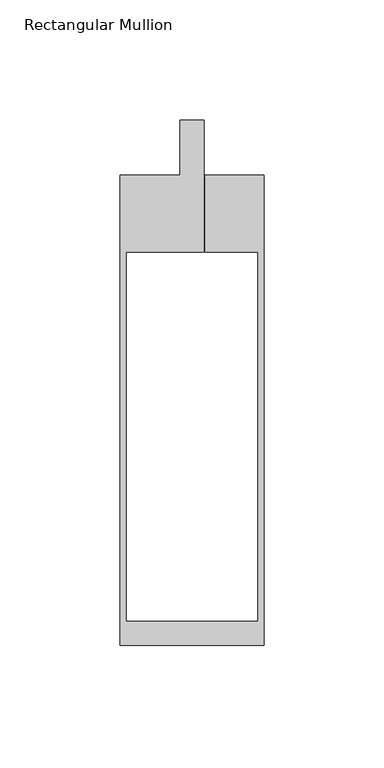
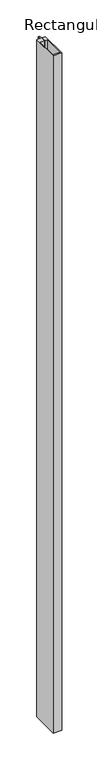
"""IFC4 building model written with IfcOpenShell, lengths in millimetres: member geometry, Rectangular Mullion : FMO60-200S S+."""

from ifc_helpers import new_model, si_unit, origin, place, context, project, spatial, faceted_brep, source, transform, mapped, element, save


def rectangular_mullion_91a4d03f(model_context):
    return source(origin(), model_context, "Body", "Brep", [
        faceted_brep([(-4.9998612, 0.2, 0.0), (-29.996122, 0.2, 0.0), (-29.996122, -195.8044778, 0.0), (30.0001388, -195.8044778, 0.0), (30.0001388, 0.2, 0.0), (5.4998612, 0.2, 0.0), (5.4998612, -31.8, 0.0), (27.5001388, -31.8, 0.0), (27.5001388, -185.8044778, 0.0), (-27.4998612, -185.8044778, 0.0), (-27.4998612, -31.8, 0.0), (4.9998612, -31.8, 0.0), (4.9998612, 23.1914962, 0.0), (-4.9998612, 23.1914866, 0.0), (-4.9998612, 0.2, -5000.0), (-4.9998612, 23.1914866, -5000.0), (4.9998612, 23.1914866, -5000.0), (4.9998612, -31.8, -5000.0), (-27.4998612, -31.8, -5000.0), (-27.4998612, -185.8044778, -5000.0), (27.5001388, -185.8044778, -5000.0), (27.5001388, -31.8, -5000.0), (5.4998612, -31.8, -5000.0), (5.4998612, 0.2, -5000.0), (30.0001388, 0.2, -5000.0), (30.0001388, -195.8044778, -5000.0), (-29.996122, -195.8044778, -5000.0), (-29.996122, 0.2, -5000.0)], [[[0, 1, 2, 3, 4, 5, 6, 7, 8, 9, 10, 11, 12, 13]], [[14, 15, 16, 17, 18, 19, 20, 21, 22, 23, 24, 25, 26, 27]], [[0, 13, 15, 14]], [[1, 0, 14, 27]], [[2, 1, 27, 26]], [[3, 2, 26, 25]], [[4, 3, 25, 24]], [[5, 4, 24, 23]], [[6, 5, 23, 22]], [[7, 6, 22, 21]], [[8, 7, 21, 20]], [[9, 8, 20, 19]], [[10, 9, 19, 18]], [[11, 10, 18, 17]], [[12, 11, 17, 16]], [[13, 12, 16, 15]]]),
    ])


if __name__ == "__main__":
    model = new_model("IFC4")
    model_context = context("Model", 3, world=origin())
    ifc_project = project(units=[si_unit("LENGTHUNIT", "METRE", prefix="MILLI")], contexts=[model_context])
    site = spatial("IfcSite", under=ifc_project)
    building = spatial("IfcBuilding", under=site)
    placement = place(None, origin())
    rectangular_mullion_shape = rectangular_mullion_91a4d03f(model_context)
    element("IfcMember", 1, ObjectType="Rectangular Mullion : FMO60-200S S+", at=placement, inside=building, context=model_context, shape_type="MappedRepresentation", body=[
        mapped(rectangular_mullion_shape, transform((0.0, 0.0, 0.0), x_axis=(1.0, 0.0, 0.0), y_axis=(0.0, 1.0, 0.0), z_axis=(0.0, 0.0, 1.0))),
    ])
    save(model, "model.ifc")
